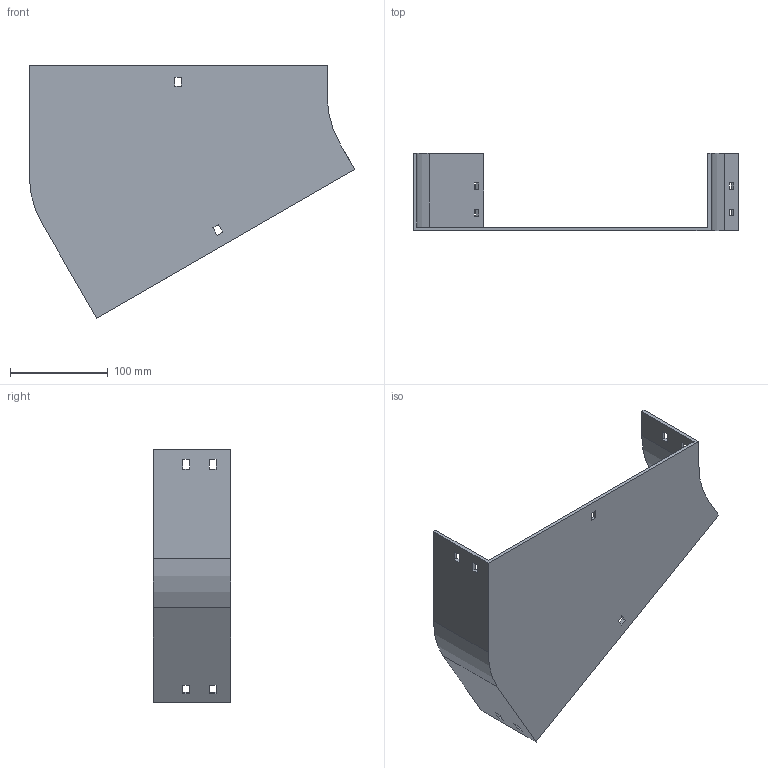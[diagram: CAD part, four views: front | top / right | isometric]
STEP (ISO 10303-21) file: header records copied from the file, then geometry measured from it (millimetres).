
FILE_DESCRIPTION (( 'STEP AP214' ), '1' );
FILE_NAME ('12F1C300.step', '2025-02-21T12:54:39', ( '' ), ( '' ), 'SwSTEP 2.0', 'SolidWorks 2023', '' );
FILE_SCHEMA (( 'AUTOMOTIVE_DESIGN' ));
Length unit declared in the file: millimetre
Products named in the file (1): 12F1C300
Bounding box: 332.4 x 79 x 257.98 mm (x, y, z)
Volume: 307591.8 mm3; surface area: 181477.5 mm2
Topology: 1 solids, 1 shells, 58 faces, 168 edges, 112 vertices
Faces by surface type: plane 54, cylinder 4
Entity records: 1943 total; most frequent: CARTESIAN_POINT 339, ORIENTED_EDGE 336, DIRECTION 294, EDGE_CURVE 168, VECTOR 160, LINE 160, VERTEX_POINT 112, EDGE_LOOP 78
